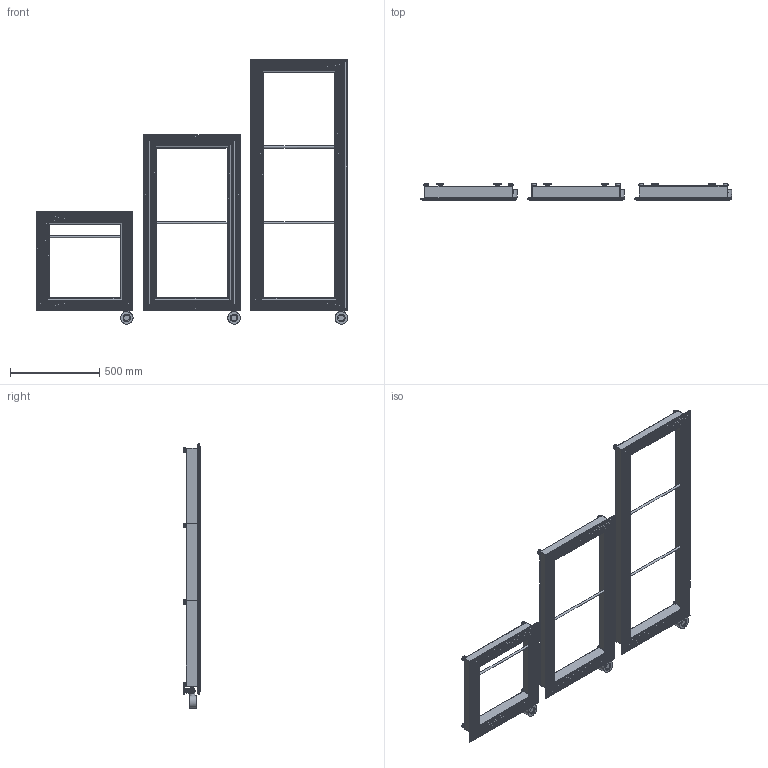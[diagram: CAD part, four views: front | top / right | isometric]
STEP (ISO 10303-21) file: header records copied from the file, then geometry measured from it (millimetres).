
FILE_DESCRIPTION ((), '1');
FILE_NAME ('/Users/melo21casa/Desktop/3D x Diliberto/Kore Plus/Kore PLus ...54.stp', '2025-09-09T16:26:45', ('Unknown'), ('Unknown'), 'HarmonyWare STEP v2.1.7', 'Vectorworks', '');
FILE_SCHEMA (('CONFIG_CONTROL_DESIGN'));
Bounding box: 1740.39 x 95.25 x 1478.16 mm (x, y, z)
Volume: 15273598 mm3; surface area: 4335670.8 mm2
Topology: 110 solids, 974 shells, 4895 faces, 14993 edges, 11204 vertices
Faces by surface type: bspline 4895
Entity records: 227185 total; most frequent: CARTESIAN_POINT 142171, ORIENTED_EDGE 25254, EDGE_CURVE 14355, B_SPLINE_CURVE_WITH_KNOTS 13656, VERTEX_POINT 10628, EDGE_LOOP 5087, FACE_OUTER_BOUND 4895, ADVANCED_FACE 4895
